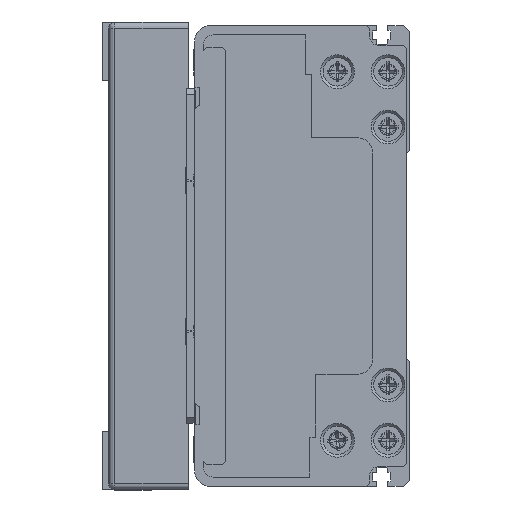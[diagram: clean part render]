
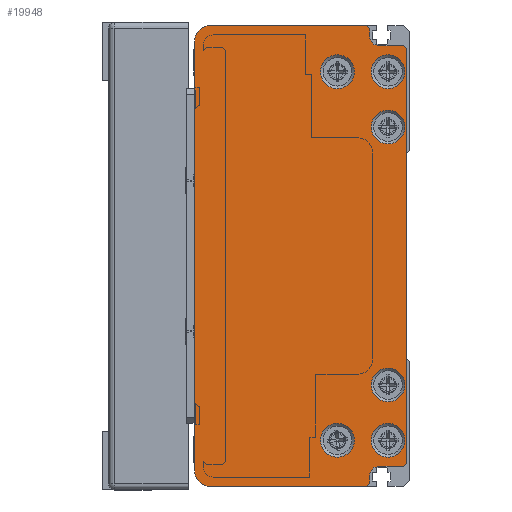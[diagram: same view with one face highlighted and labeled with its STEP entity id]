
A CAD part, left-side view. The second image highlights one B-rep face of the part: STEP entity #19948.
In plain terms, the highlighted planar face has unit normal (-1, 0, 0) as drawn and (0, 0, -1) by its records, which use the part's own axes.
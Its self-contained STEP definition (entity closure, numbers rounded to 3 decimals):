
#934=LINE('',#28882,#2599);
#935=LINE('',#28886,#2600);
#936=LINE('',#28888,#2601);
#937=LINE('',#28890,#2602);
#938=LINE('',#28894,#2603);
#939=LINE('',#28896,#2604);
#940=LINE('',#28898,#2605);
#941=LINE('',#28900,#2606);
#942=LINE('',#28902,#2607);
#943=LINE('',#28906,#2608);
#944=LINE('',#28908,#2609);
#945=LINE('',#28910,#2610);
#2599=VECTOR('',#23459,140.);
#2600=VECTOR('',#23462,51.);
#2601=VECTOR('',#23463,1.414);
#2602=VECTOR('',#23464,2.5);
#2603=VECTOR('',#23467,8.);
#2604=VECTOR('',#23468,1.414);
#2605=VECTOR('',#23469,135.);
#2606=VECTOR('',#23470,1.414);
#2607=VECTOR('',#23471,8.);
#2608=VECTOR('',#23474,2.5);
#2609=VECTOR('',#23475,1.414);
#2610=VECTOR('',#23476,51.);
#4217=PLANE('',#21330);
#4850=FACE_BOUND('',#6720,.T.);
#4851=FACE_BOUND('',#6721,.T.);
#4852=FACE_BOUND('',#6722,.T.);
#4853=FACE_BOUND('',#6723,.T.);
#4854=FACE_BOUND('',#6724,.T.);
#4855=FACE_BOUND('',#6725,.T.);
#5425=FACE_OUTER_BOUND('',#6719,.T.);
#6719=EDGE_LOOP('',(#14019,#14020,#14021,#14022,#14023,#14024,#14025,#14026,
#14027,#14028,#14029,#14030,#14031,#14032,#14033,#14034));
#6720=EDGE_LOOP('',(#14035));
#6721=EDGE_LOOP('',(#14036));
#6722=EDGE_LOOP('',(#14037));
#6723=EDGE_LOOP('',(#14038));
#6724=EDGE_LOOP('',(#14039));
#6725=EDGE_LOOP('',(#14040));
#8243=CIRCLE('',#21331,5.);
#8244=CIRCLE('',#21332,3.);
#8245=CIRCLE('',#21333,3.);
#8246=CIRCLE('',#21334,5.);
#8247=CIRCLE('',#21335,5.5);
#8248=CIRCLE('',#21336,5.5);
#8249=CIRCLE('',#21337,5.5);
#8250=CIRCLE('',#21338,5.5);
#8251=CIRCLE('',#21339,5.5);
#8252=CIRCLE('',#21340,5.5);
#8943=VERTEX_POINT('',#28880);
#8944=VERTEX_POINT('',#28881);
#8945=VERTEX_POINT('',#28883);
#8946=VERTEX_POINT('',#28885);
#8947=VERTEX_POINT('',#28887);
#8948=VERTEX_POINT('',#28889);
#8949=VERTEX_POINT('',#28891);
#8950=VERTEX_POINT('',#28893);
#8951=VERTEX_POINT('',#28895);
#8952=VERTEX_POINT('',#28897);
#8953=VERTEX_POINT('',#28899);
#8954=VERTEX_POINT('',#28901);
#8955=VERTEX_POINT('',#28903);
#8956=VERTEX_POINT('',#28905);
#8957=VERTEX_POINT('',#28907);
#8958=VERTEX_POINT('',#28909);
#8959=VERTEX_POINT('',#28912);
#8960=VERTEX_POINT('',#28914);
#8961=VERTEX_POINT('',#28916);
#8962=VERTEX_POINT('',#28918);
#8963=VERTEX_POINT('',#28920);
#8964=VERTEX_POINT('',#28922);
#10987=EDGE_CURVE('',#8943,#8944,#934,.T.);
#10988=EDGE_CURVE('',#8944,#8945,#8243,.T.);
#10989=EDGE_CURVE('',#8945,#8946,#935,.T.);
#10990=EDGE_CURVE('',#8946,#8947,#936,.T.);
#10991=EDGE_CURVE('',#8947,#8948,#937,.T.);
#10992=EDGE_CURVE('',#8948,#8949,#8244,.T.);
#10993=EDGE_CURVE('',#8949,#8950,#938,.T.);
#10994=EDGE_CURVE('',#8950,#8951,#939,.T.);
#10995=EDGE_CURVE('',#8951,#8952,#940,.T.);
#10996=EDGE_CURVE('',#8952,#8953,#941,.T.);
#10997=EDGE_CURVE('',#8953,#8954,#942,.T.);
#10998=EDGE_CURVE('',#8954,#8955,#8245,.T.);
#10999=EDGE_CURVE('',#8955,#8956,#943,.T.);
#11000=EDGE_CURVE('',#8956,#8957,#944,.T.);
#11001=EDGE_CURVE('',#8957,#8958,#945,.T.);
#11002=EDGE_CURVE('',#8958,#8943,#8246,.T.);
#11003=EDGE_CURVE('',#8959,#8959,#8247,.T.);
#11004=EDGE_CURVE('',#8960,#8960,#8248,.T.);
#11005=EDGE_CURVE('',#8961,#8961,#8249,.T.);
#11006=EDGE_CURVE('',#8962,#8962,#8250,.T.);
#11007=EDGE_CURVE('',#8963,#8963,#8251,.T.);
#11008=EDGE_CURVE('',#8964,#8964,#8252,.T.);
#14019=ORIENTED_EDGE('',*,*,#10987,.T.);
#14020=ORIENTED_EDGE('',*,*,#10988,.T.);
#14021=ORIENTED_EDGE('',*,*,#10989,.T.);
#14022=ORIENTED_EDGE('',*,*,#10990,.T.);
#14023=ORIENTED_EDGE('',*,*,#10991,.T.);
#14024=ORIENTED_EDGE('',*,*,#10992,.T.);
#14025=ORIENTED_EDGE('',*,*,#10993,.T.);
#14026=ORIENTED_EDGE('',*,*,#10994,.T.);
#14027=ORIENTED_EDGE('',*,*,#10995,.T.);
#14028=ORIENTED_EDGE('',*,*,#10996,.T.);
#14029=ORIENTED_EDGE('',*,*,#10997,.T.);
#14030=ORIENTED_EDGE('',*,*,#10998,.T.);
#14031=ORIENTED_EDGE('',*,*,#10999,.T.);
#14032=ORIENTED_EDGE('',*,*,#11000,.T.);
#14033=ORIENTED_EDGE('',*,*,#11001,.T.);
#14034=ORIENTED_EDGE('',*,*,#11002,.T.);
#14035=ORIENTED_EDGE('',*,*,#11003,.T.);
#14036=ORIENTED_EDGE('',*,*,#11004,.T.);
#14037=ORIENTED_EDGE('',*,*,#11005,.T.);
#14038=ORIENTED_EDGE('',*,*,#11006,.T.);
#14039=ORIENTED_EDGE('',*,*,#11007,.T.);
#14040=ORIENTED_EDGE('',*,*,#11008,.T.);
#19948=ADVANCED_FACE('',(#5425,#4850,#4851,#4852,#4853,#4854,#4855),#4217,
 .F.);
#21330=AXIS2_PLACEMENT_3D('',#28879,#23457,#23458);
#21331=AXIS2_PLACEMENT_3D('',#28884,#23460,#23461);
#21332=AXIS2_PLACEMENT_3D('',#28892,#23465,#23466);
#21333=AXIS2_PLACEMENT_3D('',#28904,#23472,#23473);
#21334=AXIS2_PLACEMENT_3D('',#28911,#23477,#23478);
#21335=AXIS2_PLACEMENT_3D('',#28913,#23479,#23480);
#21336=AXIS2_PLACEMENT_3D('',#28915,#23481,#23482);
#21337=AXIS2_PLACEMENT_3D('',#28917,#23483,#23484);
#21338=AXIS2_PLACEMENT_3D('',#28919,#23485,#23486);
#21339=AXIS2_PLACEMENT_3D('',#28921,#23487,#23488);
#21340=AXIS2_PLACEMENT_3D('',#28923,#23489,#23490);
#23457=DIRECTION('center_axis',(0.,0.,
1.));
#23458=DIRECTION('ref_axis',(1.,0.,0.));
#23459=DIRECTION('',(1.,0.,0.));
#23460=DIRECTION('center_axis',(0.,0.,
-1.));
#23461=DIRECTION('ref_axis',(-1.,0.,0.));
#23462=DIRECTION('',(0.,-1.,0.));
#23463=DIRECTION('',(-0.707,-0.707,0.));
#23464=DIRECTION('',(-1.,0.,0.));
#23465=DIRECTION('center_axis',(0.,0.,
1.));
#23466=DIRECTION('ref_axis',(0.,1.,0.));
#23467=DIRECTION('',(0.,-1.,0.));
#23468=DIRECTION('',(-0.707,-0.707,0.));
#23469=DIRECTION('',(-1.,0.,0.));
#23470=DIRECTION('',(-0.707,0.707,0.));
#23471=DIRECTION('',(0.,1.,0.));
#23472=DIRECTION('center_axis',(0.,0.,
1.));
#23473=DIRECTION('ref_axis',(1.,0.,0.));
#23474=DIRECTION('',(-1.,0.,0.));
#23475=DIRECTION('',(-0.707,0.707,0.));
#23476=DIRECTION('',(0.,1.,0.));
#23477=DIRECTION('center_axis',(0.,0.,
-1.));
#23478=DIRECTION('ref_axis',(0.,-1.,0.));
#23479=DIRECTION('center_axis',(0.,0.,
1.));
#23480=DIRECTION('ref_axis',(-1.,0.,0.));
#23481=DIRECTION('center_axis',(0.,0.,
1.));
#23482=DIRECTION('ref_axis',(-1.,0.,0.));
#23483=DIRECTION('center_axis',(0.,0.,
1.));
#23484=DIRECTION('ref_axis',(-1.,0.,0.));
#23485=DIRECTION('center_axis',(0.,0.,
1.));
#23486=DIRECTION('ref_axis',(-1.,0.,0.));
#23487=DIRECTION('center_axis',(0.,0.,
1.));
#23488=DIRECTION('ref_axis',(-1.,0.,0.));
#23489=DIRECTION('center_axis',(0.,0.,
1.));
#23490=DIRECTION('ref_axis',(-1.,0.,0.));
#28879=CARTESIAN_POINT('Origin',(0.25,38.047,-1619.));
#28880=CARTESIAN_POINT('',(-69.75,72.25,-1619.));
#28881=CARTESIAN_POINT('',(70.25,72.25,-1619.));
#28882=CARTESIAN_POINT('',(-69.75,72.25,-1619.));
#28883=CARTESIAN_POINT('',(75.25,67.25,-1619.));
#28884=CARTESIAN_POINT('Origin',(70.25,67.25,-1619.));
#28885=CARTESIAN_POINT('',(75.25,16.25,-1619.));
#28886=CARTESIAN_POINT('',(75.25,67.25,-1619.));
#28887=CARTESIAN_POINT('',(74.25,15.25,-1619.));
#28888=CARTESIAN_POINT('',(75.25,16.25,-1619.));
#28889=CARTESIAN_POINT('',(71.75,15.25,-1619.));
#28890=CARTESIAN_POINT('',(74.25,15.25,-1619.));
#28891=CARTESIAN_POINT('',(68.75,12.25,-1619.));
#28892=CARTESIAN_POINT('Origin',(71.75,12.25,-1619.));
#28893=CARTESIAN_POINT('',(68.75,4.25,-1619.));
#28894=CARTESIAN_POINT('',(68.75,12.25,-1619.));
#28895=CARTESIAN_POINT('',(67.75,3.25,-1619.));
#28896=CARTESIAN_POINT('',(68.75,4.25,-1619.));
#28897=CARTESIAN_POINT('',(-67.25,3.25,-1619.));
#28898=CARTESIAN_POINT('',(67.75,3.25,-1619.));
#28899=CARTESIAN_POINT('',(-68.25,4.25,-1619.));
#28900=CARTESIAN_POINT('',(-67.25,3.25,-1619.));
#28901=CARTESIAN_POINT('',(-68.25,12.25,-1619.));
#28902=CARTESIAN_POINT('',(-68.25,4.25,-1619.));
#28903=CARTESIAN_POINT('',(-71.25,15.25,-1619.));
#28904=CARTESIAN_POINT('Origin',(-71.25,12.25,-1619.));
#28905=CARTESIAN_POINT('',(-73.75,15.25,-1619.));
#28906=CARTESIAN_POINT('',(-71.25,15.25,-1619.));
#28907=CARTESIAN_POINT('',(-74.75,16.25,-1619.));
#28908=CARTESIAN_POINT('',(-73.75,15.25,-1619.));
#28909=CARTESIAN_POINT('',(-74.75,67.25,-1619.));
#28910=CARTESIAN_POINT('',(-74.75,16.25,-1619.));
#28911=CARTESIAN_POINT('Origin',(-69.75,67.25,-1619.));
#28912=CARTESIAN_POINT('',(-47.25,9.25,-1619.));
#28913=CARTESIAN_POINT('Origin',(-41.75,9.25,-1619.));
#28914=CARTESIAN_POINT('',(36.75,9.25,-1619.));
#28915=CARTESIAN_POINT('Origin',(42.25,9.25,-1619.));
#28916=CARTESIAN_POINT('',(-65.25,25.75,-1619.));
#28917=CARTESIAN_POINT('Origin',(-59.75,25.75,-1619.));
#28918=CARTESIAN_POINT('',(54.75,25.75,-1619.));
#28919=CARTESIAN_POINT('Origin',(60.25,25.75,-1619.));
#28920=CARTESIAN_POINT('',(-65.25,9.25,-1619.));
#28921=CARTESIAN_POINT('Origin',(-59.75,9.25,-1619.));
#28922=CARTESIAN_POINT('',(54.75,9.25,-1619.));
#28923=CARTESIAN_POINT('Origin',(60.25,9.25,-1619.));
